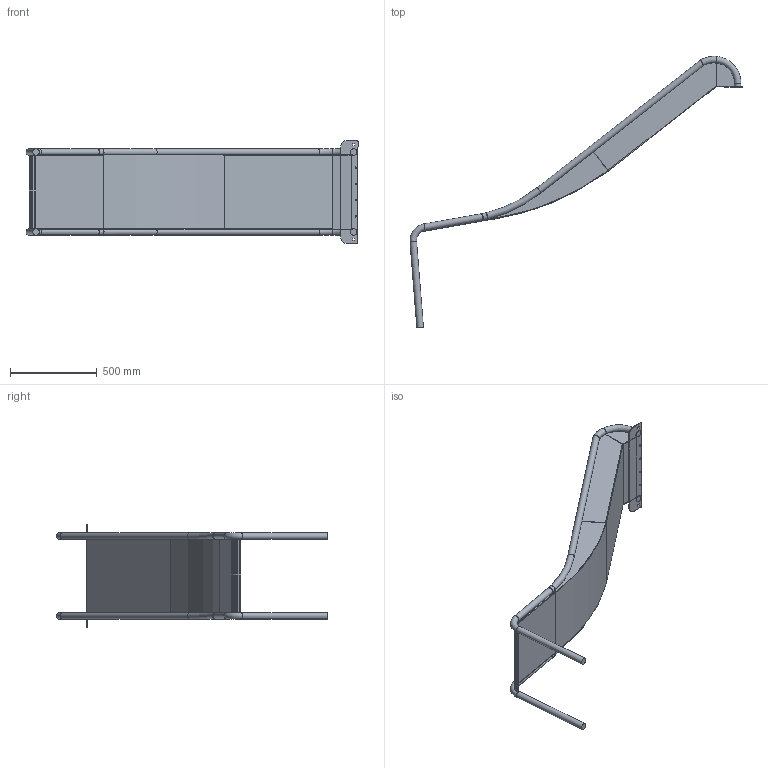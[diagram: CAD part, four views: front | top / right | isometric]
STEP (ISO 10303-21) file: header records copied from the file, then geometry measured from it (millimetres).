
FILE_DESCRIPTION(/* description */ (''),/* implementation_level */ '2;1');
FILE_NAME(/* name */ 'F:\_Inventor\- Tegningsmateriale - kunder\PlayNsafe\PlayNsafe Rutchebaner\100-1000-500 (B500 H900-1000 uden ører)\100-1000-500.stp',/* time_stamp */ '2026-09-07T11:03:56+02:00',/* author */ ('jm'),/* organization */ (''),/* preprocessor_version */ 'ST-DEVELOPER v18.1',/* originating_system */ 'Autodesk Inventor 2022',/* authorisation */ '');
FILE_SCHEMA (('AUTOMOTIVE_DESIGN { 1 0 10303 214 3 1 1 }'));
Length unit declared in the file: millimetre
Products named in the file (9): 100-1000-500; 100-1000-500 indløb; højre LB2200; udløb til LB2200 model til step; bund model til step; Rutschebane B50 Øre; Lb2200 venstre; monterings plade model uden ører; 100-1000-500 rør
Assembly tree (10 placements, depth 2):
  100-1000-500
    100-1000-500 indløb
    Rutschebane B50 Øre  x2
    højre LB2200
    udløb til LB2200 model til step
    bund model til step
    Lb2200 venstre
    monterings plade model uden ører
    100-1000-500 rør  x2
Bounding box: 1914.97 x 1563.89 x 595 mm (x, y, z)
Volume: 9321745.5 mm3; surface area: 3470638.6 mm2
Topology: 10 solids, 10 shells, 231 faces, 541 edges, 331 vertices
Faces by surface type: plane 147, cylinder 62, bspline 10, torus 8, cone 4
Full cylindrical faces by diameter (mm): 6.5 x4, 38 x12, 38.5 x2
Entity records: 7673 total; most frequent: CARTESIAN_POINT 2504, DIRECTION 1042, ORIENTED_EDGE 974, EDGE_CURVE 487, AXIS2_PLACEMENT_3D 351, LINE 340, VECTOR 340, VERTEX_POINT 294
